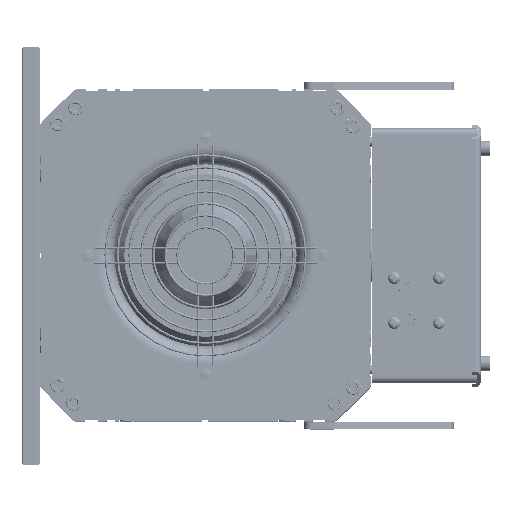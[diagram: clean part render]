
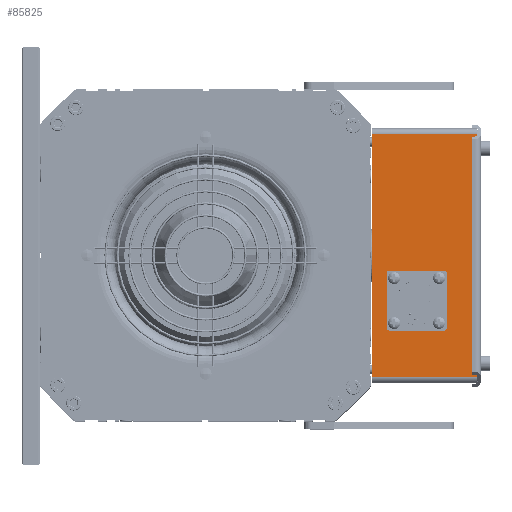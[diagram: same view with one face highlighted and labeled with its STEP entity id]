
A CAD part, top view. The second image highlights one B-rep face of the part: STEP entity #85825.
In plain terms, the highlighted planar face has unit normal (0, 0, 1) as drawn and (-1, 0, 0) by its records, which use the part's own axes.
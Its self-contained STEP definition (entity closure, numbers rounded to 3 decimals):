
#83828=DIRECTION('',(0.,-1.,0.));
#83829=VECTOR('',#83828,162.);
#83830=CARTESIAN_POINT('',(-80.,81.,0.));
#83831=LINE('',#83830,#83829);
#83903=DIRECTION('',(0.,0.,1.));
#83904=VECTOR('',#83903,70.);
#83905=CARTESIAN_POINT('',(-80.,-81.,0.));
#83906=LINE('',#83905,#83904);
#83911=CARTESIAN_POINT('',(-80.,-30.,30.));
#83912=DIRECTION('',(-1.,0.,0.));
#83913=DIRECTION('',(0.,0.,-1.));
#83914=AXIS2_PLACEMENT_3D('',#83911,#83912,#83913);
#83916=CARTESIAN_POINT('',(-80.,-30.,30.));
#83917=DIRECTION('',(-1.,0.,0.));
#83918=DIRECTION('',(0.,0.,1.));
#83919=AXIS2_PLACEMENT_3D('',#83916,#83917,#83918);
#83921=CARTESIAN_POINT('',(-80.,-45.,45.));
#83922=DIRECTION('',(-1.,0.,0.));
#83923=DIRECTION('',(0.,0.,-1.));
#83924=AXIS2_PLACEMENT_3D('',#83921,#83922,#83923);
#83926=CARTESIAN_POINT('',(-80.,-45.,45.));
#83927=DIRECTION('',(-1.,0.,0.));
#83928=DIRECTION('',(0.,0.,1.));
#83929=AXIS2_PLACEMENT_3D('',#83926,#83927,#83928);
#83931=CARTESIAN_POINT('',(-80.,-45.,15.));
#83932=DIRECTION('',(-1.,0.,0.));
#83933=DIRECTION('',(0.,0.,-1.));
#83934=AXIS2_PLACEMENT_3D('',#83931,#83932,#83933);
#83936=CARTESIAN_POINT('',(-80.,-45.,15.));
#83937=DIRECTION('',(-1.,0.,0.));
#83938=DIRECTION('',(0.,0.,1.));
#83939=AXIS2_PLACEMENT_3D('',#83936,#83937,#83938);
#83941=CARTESIAN_POINT('',(-80.,-15.,15.));
#83942=DIRECTION('',(-1.,0.,0.));
#83943=DIRECTION('',(0.,0.,-1.));
#83944=AXIS2_PLACEMENT_3D('',#83941,#83942,#83943);
#83946=CARTESIAN_POINT('',(-80.,-15.,15.));
#83947=DIRECTION('',(-1.,0.,0.));
#83948=DIRECTION('',(0.,0.,1.));
#83949=AXIS2_PLACEMENT_3D('',#83946,#83947,#83948);
#83951=CARTESIAN_POINT('',(-80.,-15.,45.));
#83952=DIRECTION('',(-1.,0.,0.));
#83953=DIRECTION('',(0.,0.,-1.));
#83954=AXIS2_PLACEMENT_3D('',#83951,#83952,#83953);
#83956=CARTESIAN_POINT('',(-80.,-15.,45.));
#83957=DIRECTION('',(-1.,0.,0.));
#83958=DIRECTION('',(0.,0.,1.));
#83959=AXIS2_PLACEMENT_3D('',#83956,#83957,#83958);
#83961=DIRECTION('',(0.,-1.,0.));
#83962=VECTOR('',#83961,162.);
#83963=CARTESIAN_POINT('',(-80.,81.,70.));
#83964=LINE('',#83963,#83962);
#85221=DIRECTION('',(0.,0.,-1.));
#85222=VECTOR('',#85221,70.);
#85223=CARTESIAN_POINT('',(-80.,81.,70.));
#85224=LINE('',#85223,#85222);
#85293=CARTESIAN_POINT('',(-80.,-30.,14.));
#85294=CARTESIAN_POINT('',(-80.,-30.,46.));
#85295=VERTEX_POINT('',#85293);
#85296=VERTEX_POINT('',#85294);
#85297=CARTESIAN_POINT('',(-80.,-45.,43.));
#85298=CARTESIAN_POINT('',(-80.,-45.,47.));
#85299=VERTEX_POINT('',#85297);
#85300=VERTEX_POINT('',#85298);
#85301=CARTESIAN_POINT('',(-80.,-45.,13.));
#85302=CARTESIAN_POINT('',(-80.,-45.,17.));
#85303=VERTEX_POINT('',#85301);
#85304=VERTEX_POINT('',#85302);
#85305=CARTESIAN_POINT('',(-80.,-15.,13.));
#85306=CARTESIAN_POINT('',(-80.,-15.,17.));
#85307=VERTEX_POINT('',#85305);
#85308=VERTEX_POINT('',#85306);
#85309=CARTESIAN_POINT('',(-80.,-15.,43.));
#85310=CARTESIAN_POINT('',(-80.,-15.,47.));
#85311=VERTEX_POINT('',#85309);
#85312=VERTEX_POINT('',#85310);
#85642=CARTESIAN_POINT('',(-80.,-81.,0.));
#85644=VERTEX_POINT('',#85642);
#85645=CARTESIAN_POINT('',(-80.,81.,0.));
#85647=VERTEX_POINT('',#85645);
#85674=CARTESIAN_POINT('',(-80.,81.,70.));
#85676=VERTEX_POINT('',#85674);
#85677=CARTESIAN_POINT('',(-80.,-81.,70.));
#85679=VERTEX_POINT('',#85677);
#85782=CARTESIAN_POINT('',(-80.,85.,0.));
#85783=DIRECTION('',(-1.,0.,0.));
#85784=DIRECTION('',(0.,-1.,0.));
#85785=AXIS2_PLACEMENT_3D('',#85782,#85783,#85784);
#85786=PLANE('',#85785);
#85788=ORIENTED_EDGE('',*,*,#85787,.F.);
#85790=ORIENTED_EDGE('',*,*,#85789,.T.);
#85791=ORIENTED_EDGE('',*,*,#85773,.F.);
#85792=ORIENTED_EDGE('',*,*,#85700,.F.);
#85793=EDGE_LOOP('',(#85788,#85790,#85791,#85792));
#85794=FACE_OUTER_BOUND('',#85793,.F.);
#85796=ORIENTED_EDGE('',*,*,#85795,.T.);
#85798=ORIENTED_EDGE('',*,*,#85797,.T.);
#85799=EDGE_LOOP('',(#85796,#85798));
#85800=FACE_BOUND('',#85799,.F.);
#85802=ORIENTED_EDGE('',*,*,#85801,.T.);
#85804=ORIENTED_EDGE('',*,*,#85803,.T.);
#85805=EDGE_LOOP('',(#85802,#85804));
#85806=FACE_BOUND('',#85805,.F.);
#85808=ORIENTED_EDGE('',*,*,#85807,.T.);
#85810=ORIENTED_EDGE('',*,*,#85809,.T.);
#85811=EDGE_LOOP('',(#85808,#85810));
#85812=FACE_BOUND('',#85811,.F.);
#85814=ORIENTED_EDGE('',*,*,#85813,.T.);
#85816=ORIENTED_EDGE('',*,*,#85815,.T.);
#85817=EDGE_LOOP('',(#85814,#85816));
#85818=FACE_BOUND('',#85817,.F.);
#85820=ORIENTED_EDGE('',*,*,#85819,.T.);
#85822=ORIENTED_EDGE('',*,*,#85821,.T.);
#85823=EDGE_LOOP('',(#85820,#85822));
#85824=FACE_BOUND('',#85823,.F.);
#85825=ADVANCED_FACE('',(#85794,#85800,#85806,#85812,#85818,#85824),#85786,.T.);
#83915=CIRCLE('',#83914,16.);
#83920=CIRCLE('',#83919,16.);
#83925=CIRCLE('',#83924,2.);
#83930=CIRCLE('',#83929,2.);
#83935=CIRCLE('',#83934,2.);
#83940=CIRCLE('',#83939,2.);
#83945=CIRCLE('',#83944,2.);
#83950=CIRCLE('',#83949,2.);
#83955=CIRCLE('',#83954,2.);
#83960=CIRCLE('',#83959,2.);
#85700=EDGE_CURVE('',#85647,#85644,#83831,.T.);
#85773=EDGE_CURVE('',#85644,#85679,#83906,.T.);
#85787=EDGE_CURVE('',#85676,#85647,#85224,.T.);
#85789=EDGE_CURVE('',#85676,#85679,#83964,.T.);
#85795=EDGE_CURVE('',#85299,#85300,#83925,.T.);
#85797=EDGE_CURVE('',#85300,#85299,#83930,.T.);
#85801=EDGE_CURVE('',#85303,#85304,#83935,.T.);
#85803=EDGE_CURVE('',#85304,#85303,#83940,.T.);
#85807=EDGE_CURVE('',#85307,#85308,#83945,.T.);
#85809=EDGE_CURVE('',#85308,#85307,#83950,.T.);
#85813=EDGE_CURVE('',#85311,#85312,#83955,.T.);
#85815=EDGE_CURVE('',#85312,#85311,#83960,.T.);
#85819=EDGE_CURVE('',#85295,#85296,#83915,.T.);
#85821=EDGE_CURVE('',#85296,#85295,#83920,.T.);
